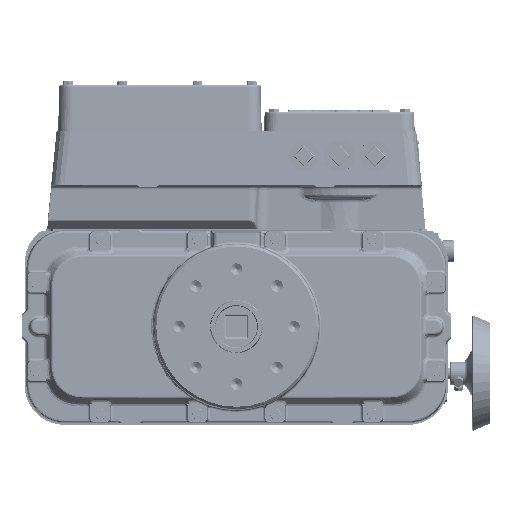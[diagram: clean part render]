
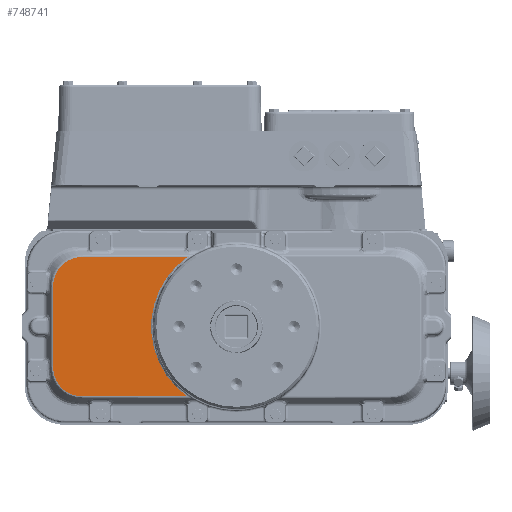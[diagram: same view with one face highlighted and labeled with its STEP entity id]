
A CAD part, front view. The second image highlights one B-rep face of the part: STEP entity #748741.
In plain terms, the highlighted planar face has unit normal (0, -1, 0).
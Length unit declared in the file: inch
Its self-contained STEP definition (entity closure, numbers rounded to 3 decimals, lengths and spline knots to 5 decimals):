
#28308 = CARTESIAN_POINT ( 'NONE',  ( -8.65914, -1.1, 3.94454 ) ) ;
#40397 = CARTESIAN_POINT ( 'NONE',  ( -9.80803, -1.1, -3.53688 ) ) ;
#44246 = CARTESIAN_POINT ( 'NONE',  ( -9.13039, -1.1, -3.89831 ) ) ;
#48029 = CARTESIAN_POINT ( 'NONE',  ( -10.1572, -1.1, -3.12457 ) ) ;
#55552 = FACE_OUTER_BOUND ( 'NONE', #474214, .T. ) ;
#70827 = ORIENTED_EDGE ( 'NONE', *, *, #377353, .T. ) ;
#71405 = EDGE_CURVE ( 'NONE', #306090, #338586, #632735, .T. ) ;
#82543 = CARTESIAN_POINT ( 'NONE',  ( -9.54816, -1.1, 3.73275 ) ) ;
#86504 = EDGE_CURVE ( 'NONE', #338586, #479077, #718708, .T. ) ;
#93949 = CARTESIAN_POINT ( 'NONE',  ( -8.90181, -1.1, 3.94149 ) ) ;
#102196 = CARTESIAN_POINT ( 'NONE',  ( -9.3922, -1.1, -3.79365 ) ) ;
#105954 = CARTESIAN_POINT ( 'NONE',  ( -9.68228, -1.1, -3.63896 ) ) ;
#122652 = LINE ( 'NONE', #357957, #742042 ) ;
#141933 = EDGE_CURVE ( 'NONE', #656240, #632389, #231260, .T. ) ;
#151749 = CARTESIAN_POINT ( 'NONE',  ( -9.73257, -1.1, 3.61234 ) ) ;
#162589 = CARTESIAN_POINT ( 'NONE',  ( -8.65914, -1.1, -3.94454 ) ) ;
#171432 = CARTESIAN_POINT ( 'NONE',  ( -9.36649, -1.1, -3.80456 ) ) ;
#198639 = DIRECTION ( 'NONE',  ( 1., 0., 0. ) ) ;
#202251 = B_SPLINE_CURVE_WITH_KNOTS ( 'NONE', 3,
 ( #218036, #576585, #518595, #699874, #275831, #333727, #569003, #395259, #48029, #507191, #40397, #105954, #746372, #341286, #102196, #171432, #337527, #44246, #696110, #757715 ),
 .UNSPECIFIED., .F., .F.,
 ( 4, 1, 1, 1, 2, 2, 2, 1, 1, 1, 2, 2, 4 ),
 ( 0., 0.125, 0.1875, 0.21875, 0.23437, 0.25, 0.5, 0.625, 0.6875, 0.71875, 0.73438, 0.75, 1. ),
 .UNSPECIFIED. ) ;
#213560 = CARTESIAN_POINT ( 'NONE',  ( -10.03734, -1.1, 3.30757 ) ) ;
#214897 = CARTESIAN_POINT ( 'NONE',  ( -10.36954, -1.1, -2.23414 ) ) ;
#218036 = CARTESIAN_POINT ( 'NONE',  ( -10.36954, -1.1, -2.23414 ) ) ;
#225540 = DIRECTION ( 'NONE',  ( 0., 1., 0. ) ) ;
#229311 = DIRECTION ( 'NONE',  ( 0., 0., 1. ) ) ;
#231260 = CIRCLE ( 'NONE', #601344, 4.8226 ) ;
#275831 = CARTESIAN_POINT ( 'NONE',  ( -10.27429, -1.1, -2.82261 ) ) ;
#281721 = CARTESIAN_POINT ( 'NONE',  ( -10.36954, -1.1, 0. ) ) ;
#291002 = CARTESIAN_POINT ( 'NONE',  ( 0., -1.1, 0. ) ) ;
#306090 = VERTEX_POINT ( 'NONE', #214897 ) ;
#306794 = VERTEX_POINT ( 'NONE', #162589 ) ;
#311696 = AXIS2_PLACEMENT_3D ( 'NONE', #291002, #225540, #229311 ) ;
#317861 = CARTESIAN_POINT ( 'NONE',  ( -9.13274, -1.1, 3.89738 ) ) ;
#320719 = DIRECTION ( 'NONE',  ( 1., 0., 0. ) ) ;
#328003 = ORIENTED_EDGE ( 'NONE', *, *, #71405, .F. ) ;
#333727 = CARTESIAN_POINT ( 'NONE',  ( -10.26009, -1.1, -2.8626 ) ) ;
#337527 = CARTESIAN_POINT ( 'NONE',  ( -9.35358, -1.1, -3.80986 ) ) ;
#338586 = VERTEX_POINT ( 'NONE', #573562 ) ;
#341286 = CARTESIAN_POINT ( 'NONE',  ( -9.43045, -1.1, -3.77686 ) ) ;
#357957 = CARTESIAN_POINT ( 'NONE',  ( 0., -1.1, -3.94454 ) ) ;
#375534 = ORIENTED_EDGE ( 'NONE', *, *, #383798, .T. ) ;
#375671 = CARTESIAN_POINT ( 'NONE',  ( -10.32238, -1.1, 2.70774 ) ) ;
#377353 = EDGE_CURVE ( 'NONE', #306794, #632389, #122652, .T. ) ;
#383670 = DIRECTION ( 'NONE',  ( 0., -1., 0. ) ) ;
#383798 = EDGE_CURVE ( 'NONE', #306090, #306794, #202251, .T. ) ;
#395259 = CARTESIAN_POINT ( 'NONE',  ( -10.24524, -1.1, -2.90238 ) ) ;
#474214 = EDGE_LOOP ( 'NONE', ( #328003, #375534, #70827, #520180, #690408, #551407 ) ) ;
#479077 = VERTEX_POINT ( 'NONE', #590907 ) ;
#495534 = DIRECTION ( 'NONE',  ( 0., 0., 1. ) ) ;
#507191 = CARTESIAN_POINT ( 'NONE',  ( -10.03879, -1.1, -3.30611 ) ) ;
#518595 = CARTESIAN_POINT ( 'NONE',  ( -10.35067, -1.1, -2.53291 ) ) ;
#520180 = ORIENTED_EDGE ( 'NONE', *, *, #141933, .F. ) ;
#551407 = ORIENTED_EDGE ( 'NONE', *, *, #86504, .F. ) ;
#564549 = CARTESIAN_POINT ( 'NONE',  ( -10.36954, -1.1, 2.23414 ) ) ;
#569003 = CARTESIAN_POINT ( 'NONE',  ( -10.25031, -1.1, -2.88912 ) ) ;
#573562 = CARTESIAN_POINT ( 'NONE',  ( -10.36954, -1.1, 2.23414 ) ) ;
#576585 = CARTESIAN_POINT ( 'NONE',  ( -10.36801, -1.1, -2.3562 ) ) ;
#590907 = CARTESIAN_POINT ( 'NONE',  ( -8.65914, -1.1, 3.94454 ) ) ;
#601344 = AXIS2_PLACEMENT_3D ( 'NONE', #622916, #383670, #495534 ) ;
#611028 = CARTESIAN_POINT ( 'NONE',  ( -10.15775, -1.1, 3.12316 ) ) ;
#613881 = LINE ( 'NONE', #617663, #750397 ) ;
#617663 = CARTESIAN_POINT ( 'NONE',  ( 0., -1.1, 3.94454 ) ) ;
#622916 = CARTESIAN_POINT ( 'NONE',  ( 0., -1.1, 0. ) ) ;
#632389 = VERTEX_POINT ( 'NONE', #761984 ) ;
#632735 = LINE ( 'NONE', #281721, #640005 ) ;
#640005 = VECTOR ( 'NONE', #752219, 39.37008 ) ;
#641997 = CARTESIAN_POINT ( 'NONE',  ( -2.77453, -1.1, 3.94454 ) ) ;
#645789 = PLANE ( 'NONE',  #311696 ) ;
#656240 = VERTEX_POINT ( 'NONE', #641997 ) ;
#684131 = CARTESIAN_POINT ( 'NONE',  ( -10.36649, -1.1, 2.47681 ) ) ;
#684580 = EDGE_CURVE ( 'NONE', #479077, #656240, #613881, .T. ) ;
#690408 = ORIENTED_EDGE ( 'NONE', *, *, #684580, .F. ) ;
#696110 = CARTESIAN_POINT ( 'NONE',  ( -8.90329, -1.1, -3.94147 ) ) ;
#699874 = CARTESIAN_POINT ( 'NONE',  ( -10.30414, -1.1, -2.7279 ) ) ;
#718708 = B_SPLINE_CURVE_WITH_KNOTS ( 'NONE', 3,
 ( #564549, #684131, #375671, #611028, #213560, #151749, #82543, #317861, #93949, #28308 ),
 .UNSPECIFIED., .F., .F.,
 ( 4, 2, 2, 2, 4 ),
 ( 0., 0.25, 0.5, 0.75, 1. ),
 .UNSPECIFIED. ) ;
#742042 = VECTOR ( 'NONE', #198639, 39.37008 ) ;
#746372 = CARTESIAN_POINT ( 'NONE',  ( -9.51742, -1.1, -3.73477 ) ) ;
#748741 = ADVANCED_FACE ( 'NONE', ( #55552 ), #645789, .F. ) ;
#750397 = VECTOR ( 'NONE', #320719, 39.37008 ) ;
#752219 = DIRECTION ( 'NONE',  ( 0., 0., 1. ) ) ;
#757715 = CARTESIAN_POINT ( 'NONE',  ( -8.65914, -1.1, -3.94454 ) ) ;
#761984 = CARTESIAN_POINT ( 'NONE',  ( -2.77453, -1.1, -3.94454 ) ) ;
